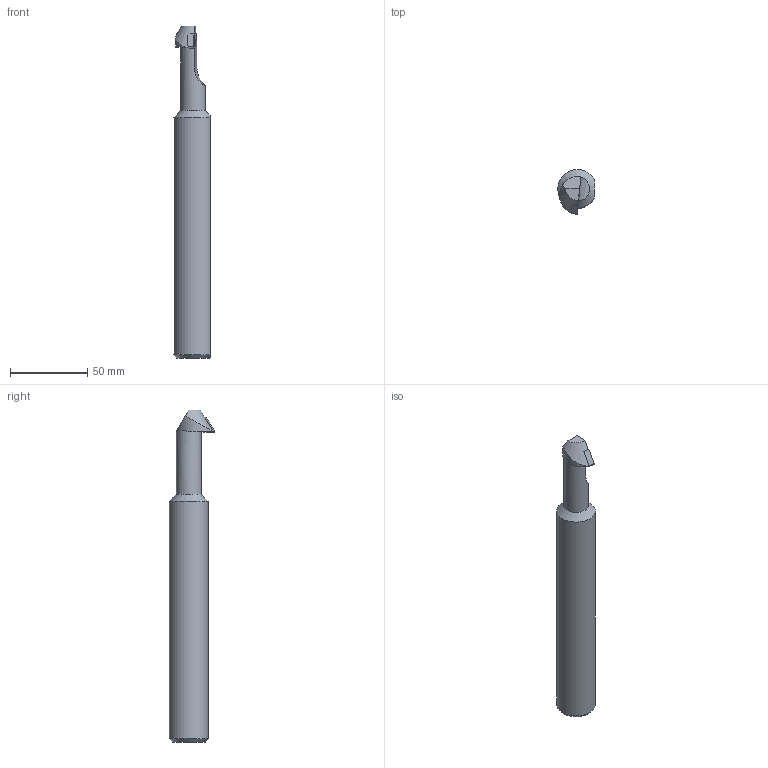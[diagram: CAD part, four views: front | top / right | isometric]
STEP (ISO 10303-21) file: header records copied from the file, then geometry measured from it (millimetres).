
FILE_DESCRIPTION(/* description */ (''),/* implementation_level */ '2;1');
FILE_NAME(/* name */ 'A25R-SDZCR-11-HAAS.stp',/* time_stamp */ '2021-09-29T10:54:00+09:00',/* author */ (''),/* organization */ (''),/* preprocessor_version */ 'ST-DEVELOPER v15',/* originating_system */ 'SIEMENS PLM Software NX 8.5',/* authorisation */ '');
FILE_SCHEMA (('AP203_CONFIGURATION_CONTROLLED_3D_DESIGN_OF_MECHANICAL_PARTS_AND_ASSEMBLIES_MIM_LF { 1 0 10303 403 2 1 2}'));
Length unit declared in the file: millimetre
Products named in the file (1): user6E2824B868zw
Bounding box: 23.45 x 29.13 x 214.6 mm (x, y, z)
Volume: 79965.1 mm3; surface area: 19453.5 mm2
Topology: 2 solids, 2 shells, 25 faces, 60 edges, 40 vertices
Faces by surface type: plane 12, cone 7, cylinder 5, bspline 1
Full cylindrical faces by diameter (mm): 6 x2, 16 x1
Entity records: 871 total; most frequent: CARTESIAN_POINT 237, DIRECTION 109, ORIENTED_EDGE 104, EDGE_CURVE 52, AXIS2_PLACEMENT_3D 43, VERTEX_POINT 37, EDGE_LOOP 33, ADVANCED_FACE 25
